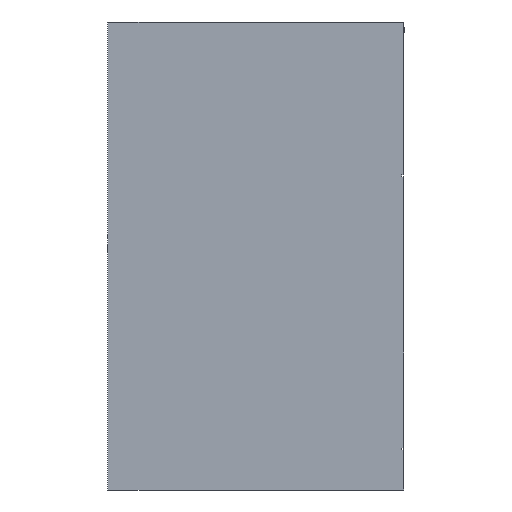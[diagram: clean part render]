
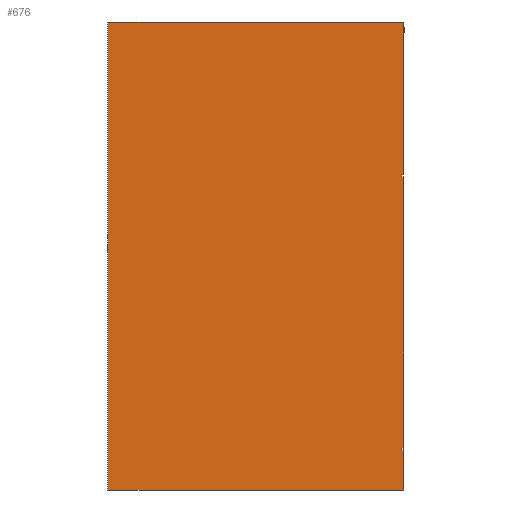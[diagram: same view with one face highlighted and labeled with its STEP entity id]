
A CAD part, left-side view. The second image highlights one B-rep face of the part: STEP entity #676.
In plain terms, the highlighted planar face has unit normal (-1, 0, 0).
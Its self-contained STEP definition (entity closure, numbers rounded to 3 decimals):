
#50=FACE_OUTER_BOUND('',#77,.T.);
#77=EDGE_LOOP('',(#600,#601,#602,#603,#604,#605,#606,#607,#608,#609,#610,
#611));
#211=VERTEX_POINT('',#1750);
#213=VERTEX_POINT('',#1754);
#215=VERTEX_POINT('',#1759);
#216=VERTEX_POINT('',#1764);
#219=VERTEX_POINT('',#1771);
#221=VERTEX_POINT('',#1775);
#223=VERTEX_POINT('',#1780);
#224=VERTEX_POINT('',#1785);
#226=VERTEX_POINT('',#1794);
#229=VERTEX_POINT('',#1801);
#231=VERTEX_POINT('',#1808);
#233=VERTEX_POINT('',#1814);
#372=EDGE_CURVE('',#211,#213,#903,.T.);
#375=EDGE_CURVE('',#215,#211,#906,.T.);
#376=EDGE_CURVE('',#216,#215,#907,.T.);
#382=EDGE_CURVE('',#219,#221,#913,.T.);
#385=EDGE_CURVE('',#223,#219,#916,.T.);
#386=EDGE_CURVE('',#224,#223,#917,.T.);
#390=EDGE_CURVE('',#221,#216,#921,.T.);
#392=EDGE_CURVE('',#213,#226,#923,.T.);
#396=EDGE_CURVE('',#229,#224,#927,.T.);
#398=EDGE_CURVE('',#231,#229,#929,.T.);
#402=EDGE_CURVE('',#226,#233,#933,.T.);
#404=EDGE_CURVE('',#233,#231,#935,.T.);
#600=ORIENTED_EDGE('',*,*,#398,.T.);
#601=ORIENTED_EDGE('',*,*,#396,.T.);
#602=ORIENTED_EDGE('',*,*,#386,.T.);
#603=ORIENTED_EDGE('',*,*,#385,.T.);
#604=ORIENTED_EDGE('',*,*,#382,.T.);
#605=ORIENTED_EDGE('',*,*,#390,.T.);
#606=ORIENTED_EDGE('',*,*,#376,.T.);
#607=ORIENTED_EDGE('',*,*,#375,.T.);
#608=ORIENTED_EDGE('',*,*,#372,.T.);
#609=ORIENTED_EDGE('',*,*,#392,.T.);
#610=ORIENTED_EDGE('',*,*,#402,.T.);
#611=ORIENTED_EDGE('',*,*,#404,.T.);
#649=PLANE('',#1153);
#676=ADVANCED_FACE('',(#50),#649,.T.);
#903=LINE('',#1756,#1094);
#906=LINE('',#1762,#1097);
#907=LINE('',#1765,#1098);
#913=LINE('',#1777,#1104);
#916=LINE('',#1783,#1107);
#917=LINE('',#1786,#1108);
#921=LINE('',#1792,#1112);
#923=LINE('',#1797,#1114);
#927=LINE('',#1804,#1118);
#929=LINE('',#1809,#1120);
#933=LINE('',#1816,#1124);
#935=LINE('',#1819,#1126);
#1094=VECTOR('',#1345,10.);
#1097=VECTOR('',#1350,10.);
#1098=VECTOR('',#1353,10.);
#1104=VECTOR('',#1361,10.);
#1107=VECTOR('',#1366,10.);
#1108=VECTOR('',#1369,10.);
#1112=VECTOR('',#1375,1490.);
#1114=VECTOR('',#1379,840.);
#1118=VECTOR('',#1385,220.);
#1120=VECTOR('',#1389,1625.);
#1124=VECTOR('',#1395,1625.);
#1126=VECTOR('',#1399,2570.);
#1153=AXIS2_PLACEMENT_3D('',#1820,#1400,#1401);
#1345=DIRECTION('',(0.,-1.,0.));
#1350=DIRECTION('',(0.,0.,1.));
#1353=DIRECTION('',(0.,1.,0.));
#1361=DIRECTION('',(0.,-1.,0.));
#1366=DIRECTION('',(0.,0.,1.));
#1369=DIRECTION('',(0.,1.,0.));
#1375=DIRECTION('',(0.,0.,1.));
#1379=DIRECTION('',(0.,0.,1.));
#1385=DIRECTION('',(0.,0.,1.));
#1389=DIRECTION('',(0.,-1.,0.));
#1395=DIRECTION('',(0.,1.,0.));
#1399=DIRECTION('',(0.,0.,-1.));
#1400=DIRECTION('center_axis',(-1.,0.,0.));
#1401=DIRECTION('ref_axis',(0.,0.,-1.));
#1750=CARTESIAN_POINT('',(0.,-1615.,1730.));
#1754=CARTESIAN_POINT('',(0.,-1625.,1730.));
#1756=CARTESIAN_POINT('',(0.,-1615.,1730.));
#1759=CARTESIAN_POINT('',(0.,-1615.,1720.));
#1762=CARTESIAN_POINT('',(0.,-1615.,1720.));
#1764=CARTESIAN_POINT('',(0.,-1625.,1720.));
#1765=CARTESIAN_POINT('',(0.,-1625.,1720.));
#1771=CARTESIAN_POINT('',(0.,-1615.,230.));
#1775=CARTESIAN_POINT('',(0.,-1625.,230.));
#1777=CARTESIAN_POINT('',(0.,-1615.,230.));
#1780=CARTESIAN_POINT('',(0.,-1615.,220.));
#1783=CARTESIAN_POINT('',(0.,-1615.,220.));
#1785=CARTESIAN_POINT('',(0.,-1625.,220.));
#1786=CARTESIAN_POINT('',(0.,-1625.,220.));
#1792=CARTESIAN_POINT('',(0.,-1625.,230.));
#1794=CARTESIAN_POINT('',(0.,-1625.,2570.));
#1797=CARTESIAN_POINT('',(0.,-1625.,1730.));
#1801=CARTESIAN_POINT('',(0.,-1625.,0.));
#1804=CARTESIAN_POINT('',(0.,-1625.,0.));
#1808=CARTESIAN_POINT('',(0.,0.,0.));
#1809=CARTESIAN_POINT('',(0.,0.,0.));
#1814=CARTESIAN_POINT('',(0.,0.,2570.));
#1816=CARTESIAN_POINT('',(0.,-1625.,2570.));
#1819=CARTESIAN_POINT('',(0.,0.,2570.));
#1820=CARTESIAN_POINT('Origin',(0.,0.,0.));
